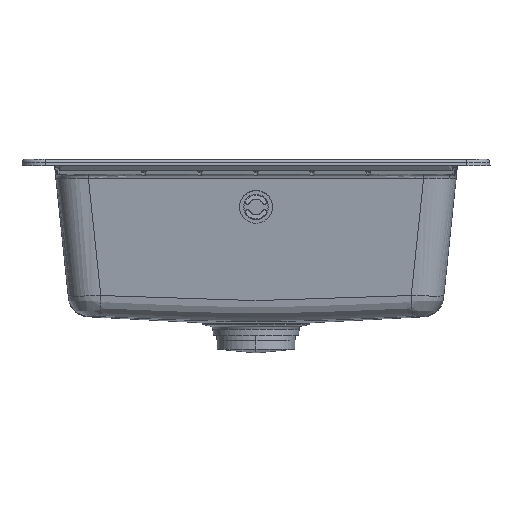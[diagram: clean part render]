
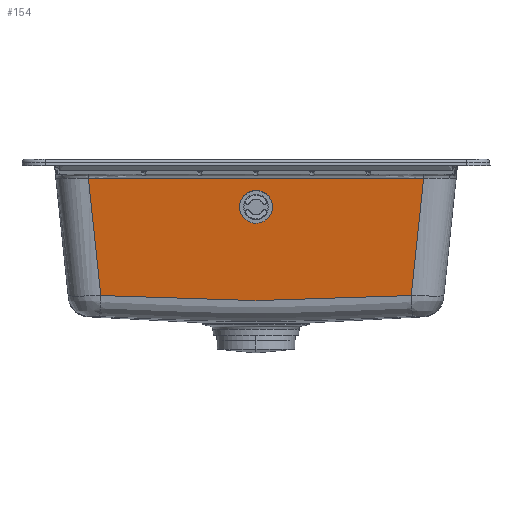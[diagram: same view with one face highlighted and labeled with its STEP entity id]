
A CAD part, left-side view. The second image highlights one B-rep face of the part: STEP entity #154.
In plain terms, the highlighted planar face has unit normal (-0.995, 0, -0.104).
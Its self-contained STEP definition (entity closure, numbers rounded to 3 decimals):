
#30=FACE_BOUND('',#812,.T.);
#154=ADVANCED_FACE('',(#482,#30),#5879,.T.);
#482=FACE_OUTER_BOUND('',#811,.T.);
#811=EDGE_LOOP('',(#1392,#1393,#1394,#1395));
#812=EDGE_LOOP('',(#1396,#1397));
#1392=ORIENTED_EDGE('',*,*,#3186,.T.);
#1393=ORIENTED_EDGE('',*,*,#3253,.T.);
#1394=ORIENTED_EDGE('',*,*,#3248,.T.);
#1395=ORIENTED_EDGE('',*,*,#3188,.T.);
#1396=ORIENTED_EDGE('',*,*,#3338,.T.);
#1397=ORIENTED_EDGE('',*,*,#3339,.T.);
#3186=EDGE_CURVE('',#5016,#5057,#4424,.T.);
#3188=EDGE_CURVE('',#5059,#5016,#4426,.T.);
#3248=EDGE_CURVE('',#5060,#5059,#4444,.T.);
#3253=EDGE_CURVE('',#5057,#5060,#4449,.T.);
#3338=EDGE_CURVE('',#5125,#5126,#4140,.T.);
#3339=EDGE_CURVE('',#5126,#5125,#4141,.T.);
#4140=(
BOUNDED_CURVE()
B_SPLINE_CURVE(2,(#17293,#17294,#17295,#17296,#17297),.UNSPECIFIED.,.F.,
 .F.)
B_SPLINE_CURVE_WITH_KNOTS((3,2,3),(0.,1.571,3.142),
 .UNSPECIFIED.)
CURVE()
GEOMETRIC_REPRESENTATION_ITEM()
RATIONAL_B_SPLINE_CURVE((1.,0.707,1.,0.707,1.))
REPRESENTATION_ITEM('')
);
#4141=(
BOUNDED_CURVE()
B_SPLINE_CURVE(2,(#17298,#17299,#17300,#17301,#17302),.UNSPECIFIED.,.F.,
 .F.)
B_SPLINE_CURVE_WITH_KNOTS((3,2,3),(0.,1.571,3.142),
 .UNSPECIFIED.)
CURVE()
GEOMETRIC_REPRESENTATION_ITEM()
RATIONAL_B_SPLINE_CURVE((1.,0.707,1.,0.707,1.))
REPRESENTATION_ITEM('')
);
#4424=B_SPLINE_CURVE_WITH_KNOTS('',1,(#15440,#15441),.UNSPECIFIED.,.F.,
 .F.,(2,2),(0.,126.827),.UNSPECIFIED.);
#4426=B_SPLINE_CURVE_WITH_KNOTS('',1,(#15444,#15445),.UNSPECIFIED.,.F.,
 .F.,(2,2),(-358.095,0.),.UNSPECIFIED.);
#4444=B_SPLINE_CURVE_WITH_KNOTS('',1,(#16536,#16537),.UNSPECIFIED.,.F.,
 .F.,(2,2),(-126.827,0.),.UNSPECIFIED.);
#4449=B_SPLINE_CURVE_WITH_KNOTS('',5,(#16619,#16620,#16621,#16622,#16623,
#16624,#16625,#16626,#16627,#16628,#16629,#16630,#16631,#16632,#16633,#16634,
#16635,#16636,#16637,#16638,#16639,#16640,#16641,#16642,#16643,#16644,#16645,
#16646,#16647,#16648,#16649,#16650,#16651,#16652,#16653,#16654,#16655,#16656,
#16657,#16658,#16659,#16660,#16661,#16662,#16663,#16664,#16665,#16666,#16667,
#16668,#16669,#16670,#16671,#16672,#16673,#16674,#16675,#16676,#16677,#16678,
#16679,#16680,#16681),.UNSPECIFIED.,.F.,.F.,(6,1,1,1,1,1,1,1,1,1,1,1,1,
1,1,1,1,1,1,1,1,1,1,1,1,1,1,1,1,1,1,1,1,1,1,1,1,1,1,1,1,1,1,1,1,1,1,1,1,
1,1,1,1,1,1,1,1,1,6),(0.,0.028,0.054,0.078,
0.101,0.123,0.145,0.165,
0.184,0.203,0.22,0.238,
0.254,0.27,0.286,0.301,
0.316,0.331,0.345,0.359,0.373,
0.387,0.401,0.415,0.428,
0.442,0.456,0.469,0.483,
0.496,0.51,0.524,0.537,
0.551,0.564,0.578,0.592,
0.606,0.62,0.634,0.648,
0.662,0.677,0.692,0.708,
0.724,0.74,0.757,0.774,
0.792,0.811,0.831,0.851,
0.873,0.895,0.919,0.945,
0.971,1.),.UNSPECIFIED.);
#5016=VERTEX_POINT('',#13785);
#5057=VERTEX_POINT('',#13826);
#5059=VERTEX_POINT('',#13828);
#5060=VERTEX_POINT('',#13829);
#5125=VERTEX_POINT('',#13894);
#5126=VERTEX_POINT('',#13895);
#5879=PLANE('',#5915);
#5915=AXIS2_PLACEMENT_3D('',#8843,#5935,$);
#5935=DIRECTION('',(-0.995,0.,-0.105));
#8843=CARTESIAN_POINT('',(98.279,150.939,-164.399));
#13785=CARTESIAN_POINT('',(83.144,115.048,-20.399));
#13826=CARTESIAN_POINT('',(96.329,101.862,-145.848));
#13828=CARTESIAN_POINT('',(83.144,-243.048,-20.399));
#13829=CARTESIAN_POINT('',(96.329,-229.862,-145.848));
#13894=CARTESIAN_POINT('',(84.531,-64.,-33.596));
#13895=CARTESIAN_POINT('',(88.19,-64.,-68.404));
#15440=CARTESIAN_POINT('',(83.144,115.048,-20.399));
#15441=CARTESIAN_POINT('',(96.329,101.862,-145.848));
#15444=CARTESIAN_POINT('',(83.144,-243.048,-20.399));
#15445=CARTESIAN_POINT('',(83.144,115.048,-20.399));
#16536=CARTESIAN_POINT('',(96.329,-229.862,-145.848));
#16537=CARTESIAN_POINT('',(83.144,-243.048,-20.399));
#16619=CARTESIAN_POINT('',(96.329,101.862,-145.848));
#16620=CARTESIAN_POINT('',(96.339,100.011,-145.935));
#16621=CARTESIAN_POINT('',(96.356,96.446,-146.101));
#16622=CARTESIAN_POINT('',(96.381,91.259,-146.343));
#16623=CARTESIAN_POINT('',(96.414,84.528,-146.653));
#16624=CARTESIAN_POINT('',(96.453,76.323,-147.026));
#16625=CARTESIAN_POINT('',(96.49,68.562,-147.374));
#16626=CARTESIAN_POINT('',(96.524,61.171,-147.7));
#16627=CARTESIAN_POINT('',(96.556,54.12,-148.005));
#16628=CARTESIAN_POINT('',(96.586,47.384,-148.291));
#16629=CARTESIAN_POINT('',(96.614,40.941,-148.56));
#16630=CARTESIAN_POINT('',(96.641,34.764,-148.811));
#16631=CARTESIAN_POINT('',(96.666,28.826,-149.046));
#16632=CARTESIAN_POINT('',(96.689,23.101,-149.267));
#16633=CARTESIAN_POINT('',(96.711,17.566,-149.474));
#16634=CARTESIAN_POINT('',(96.731,12.2,-149.668));
#16635=CARTESIAN_POINT('',(96.75,6.985,-149.85));
#16636=CARTESIAN_POINT('',(96.768,1.904,-150.02));
#16637=CARTESIAN_POINT('',(96.784,-3.06,-150.178));
#16638=CARTESIAN_POINT('',(96.8,-7.924,-150.325));
#16639=CARTESIAN_POINT('',(96.814,-12.702,-150.461));
#16640=CARTESIAN_POINT('',(96.827,-17.408,-150.587));
#16641=CARTESIAN_POINT('',(96.84,-22.056,-150.702));
#16642=CARTESIAN_POINT('',(96.851,-26.657,-150.806));
#16643=CARTESIAN_POINT('',(96.86,-31.223,-150.899));
#16644=CARTESIAN_POINT('',(96.869,-35.763,-150.982));
#16645=CARTESIAN_POINT('',(96.876,-40.285,-151.053));
#16646=CARTESIAN_POINT('',(96.883,-44.795,-151.112));
#16647=CARTESIAN_POINT('',(96.888,-49.3,-151.16));
#16648=CARTESIAN_POINT('',(96.891,-53.8,-151.195));
#16649=CARTESIAN_POINT('',(96.894,-58.3,-151.217));
#16650=CARTESIAN_POINT('',(96.895,-62.799,-151.227));
#16651=CARTESIAN_POINT('',(96.894,-67.298,-151.224));
#16652=CARTESIAN_POINT('',(96.893,-71.797,-151.208));
#16653=CARTESIAN_POINT('',(96.89,-76.299,-151.18));
#16654=CARTESIAN_POINT('',(96.886,-80.805,-151.139));
#16655=CARTESIAN_POINT('',(96.88,-85.32,-151.086));
#16656=CARTESIAN_POINT('',(96.873,-89.849,-151.021));
#16657=CARTESIAN_POINT('',(96.865,-94.399,-150.944));
#16658=CARTESIAN_POINT('',(96.856,-98.98,-150.856));
#16659=CARTESIAN_POINT('',(96.845,-103.603,-150.756));
#16660=CARTESIAN_POINT('',(96.834,-108.278,-150.645));
#16661=CARTESIAN_POINT('',(96.821,-113.019,-150.523));
#16662=CARTESIAN_POINT('',(96.807,-117.839,-150.39));
#16663=CARTESIAN_POINT('',(96.792,-122.751,-150.245));
#16664=CARTESIAN_POINT('',(96.775,-127.769,-150.089));
#16665=CARTESIAN_POINT('',(96.757,-132.909,-149.92));
#16666=CARTESIAN_POINT('',(96.738,-138.187,-149.739));
#16667=CARTESIAN_POINT('',(96.718,-143.622,-149.545));
#16668=CARTESIAN_POINT('',(96.696,-149.235,-149.338));
#16669=CARTESIAN_POINT('',(96.673,-155.046,-149.116));
#16670=CARTESIAN_POINT('',(96.648,-161.078,-148.878));
#16671=CARTESIAN_POINT('',(96.621,-167.358,-148.625));
#16672=CARTESIAN_POINT('',(96.593,-173.912,-148.353));
#16673=CARTESIAN_POINT('',(96.562,-180.77,-148.063));
#16674=CARTESIAN_POINT('',(96.53,-187.964,-147.752));
#16675=CARTESIAN_POINT('',(96.495,-195.528,-147.42));
#16676=CARTESIAN_POINT('',(96.457,-203.504,-147.063));
#16677=CARTESIAN_POINT('',(96.417,-211.958,-146.679));
#16678=CARTESIAN_POINT('',(96.383,-218.906,-146.359));
#16679=CARTESIAN_POINT('',(96.357,-224.268,-146.11));
#16680=CARTESIAN_POINT('',(96.339,-227.954,-145.937));
#16681=CARTESIAN_POINT('',(96.329,-229.862,-145.848));
#17293=CARTESIAN_POINT('',(84.531,-64.,-33.596));
#17294=CARTESIAN_POINT('',(84.531,-81.5,-33.596));
#17295=CARTESIAN_POINT('',(86.36,-81.5,-51.));
#17296=CARTESIAN_POINT('',(88.19,-81.5,-68.404));
#17297=CARTESIAN_POINT('',(88.19,-64.,-68.404));
#17298=CARTESIAN_POINT('',(88.19,-64.,-68.404));
#17299=CARTESIAN_POINT('',(88.19,-46.5,-68.404));
#17300=CARTESIAN_POINT('',(86.36,-46.5,-51.));
#17301=CARTESIAN_POINT('',(84.531,-46.5,-33.596));
#17302=CARTESIAN_POINT('',(84.531,-64.,-33.596));
